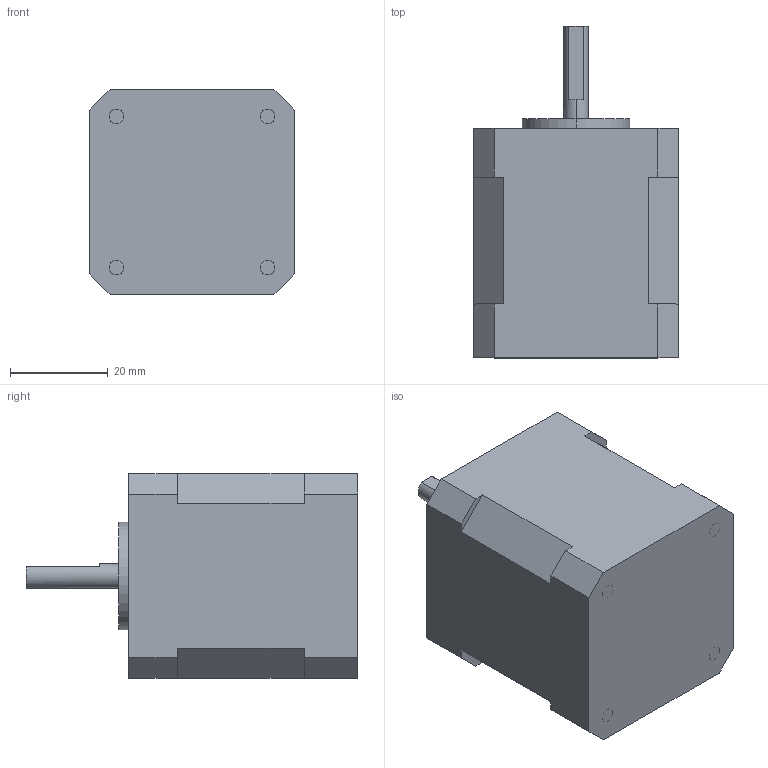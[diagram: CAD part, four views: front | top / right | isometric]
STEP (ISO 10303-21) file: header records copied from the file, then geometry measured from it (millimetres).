
FILE_DESCRIPTION (( 'STEP AP214' ), '1' );
FILE_NAME ('42A03-21£¨42HS47-D0521-014£©.STEP', '2020-04-28T00:30:26', ( 'wimxt.com' ), ( 'wimxt.com' ), 'SwSTEP 2.0', 'SolidWorks 2014', '' );
FILE_SCHEMA (( 'AUTOMOTIVE_DESIGN' ));
Length unit declared in the file: millimetre
Products named in the file (1): 42A03-21（42HS47-D0521-014）
Bounding box: 42 x 68 x 42 mm (x, y, z)
Volume: 79963 mm3; surface area: 13050 mm2
Topology: 1 solids, 1 shells, 46 faces, 114 edges, 76 vertices
Faces by surface type: plane 34, cylinder 12
Entity records: 1398 total; most frequent: CARTESIAN_POINT 237, DIRECTION 234, ORIENTED_EDGE 228, EDGE_CURVE 114, VECTOR 88, LINE 88, VERTEX_POINT 76, AXIS2_PLACEMENT_3D 73
